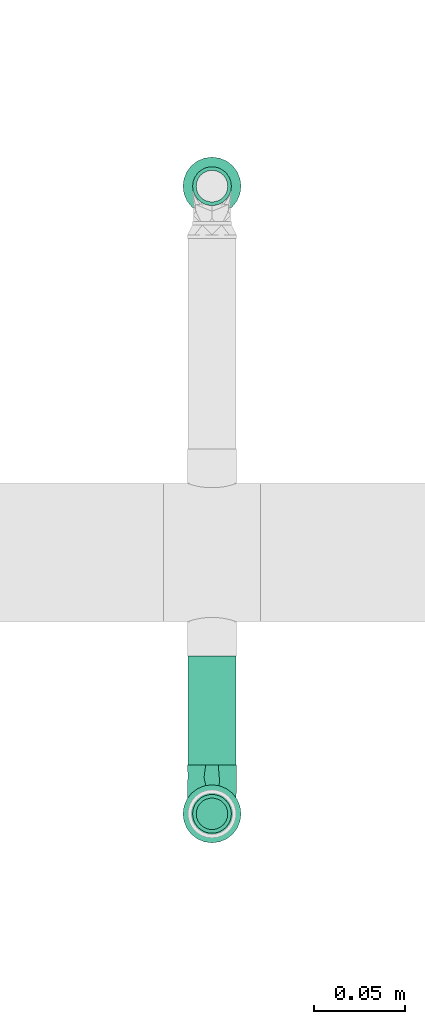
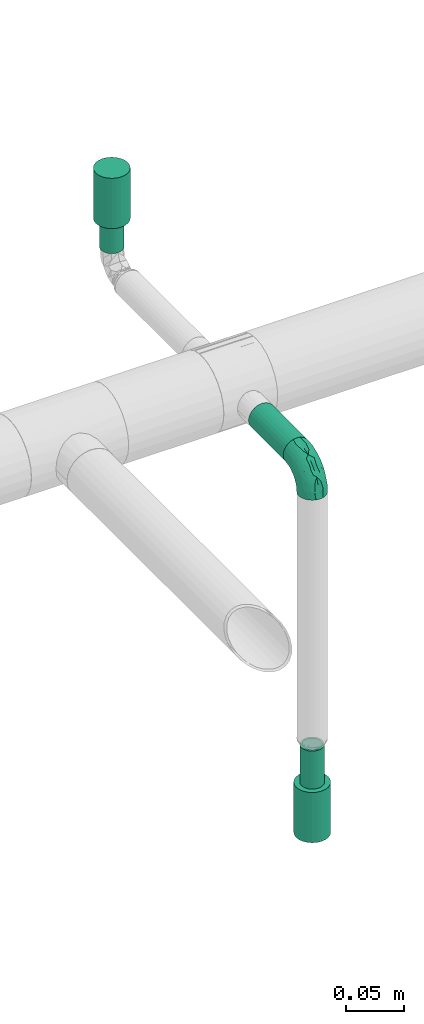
# One storey, part 40 of 51: 3 flow segments, 2 flow terminals, 1 flow fitting.
"""IFC2X3 building model written with IfcOpenShell, lengths in millimetres."""

from ifc_helpers import new_model, entity, si_unit, converted_unit, derived_unit, direction, frame, origin_with_axes, origin_2d_with_axis, place, context, subcontext, project, spatial, hollow_circle, extrude, open_shell, surface_model, source, transform, mapped, type_object, element, save


model = new_model("IFC2X3")

# Units and contexts
model_context = context("Model", 3, precision=0.01, world=frame((0.0, 4.29681676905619e-09, 0.0)), true_north=direction((4.01073788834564e-13, 1.0)))
plan_context = context("Plan", 3, precision=0.01, world=frame((0.0, 4.29681676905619e-09, 0.0)), true_north=direction((4.01073788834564e-13, 1.0)))
body_context = subcontext(model_context, "Body", "Model", "MODEL_VIEW")
ifc_project = project(units=[converted_unit("PLANEANGLEUNIT", "DEGREE", entity("IfcPositiveLengthMeasure", 0.0174532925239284), si_unit("PLANEANGLEUNIT", "RADIAN"), dimensions=[0, 0, 0, 0, 0, 0, 0]), si_unit("AREAUNIT", "SQUARE_METRE"), si_unit("LENGTHUNIT", "METRE", prefix="MILLI"), si_unit("MASSUNIT", "GRAM", prefix="KILO"), si_unit("POWERUNIT", "WATT"), si_unit("PRESSUREUNIT", "PASCAL"), si_unit("FORCEUNIT", "NEWTON", prefix="KILO"), si_unit("ELECTRICVOLTAGEUNIT", "VOLT"), si_unit("ELECTRICCURRENTUNIT", "AMPERE"), si_unit("THERMODYNAMICTEMPERATUREUNIT", "DEGREE_CELSIUS"), si_unit("TIMEUNIT", "SECOND"), si_unit("VOLUMEUNIT", "CUBIC_METRE"), derived_unit("LINEARVELOCITYUNIT", [(si_unit("LENGTHUNIT", "METRE"), 1), (si_unit("TIMEUNIT", "SECOND"), -1)]), derived_unit("VOLUMETRICFLOWRATEUNIT", [(si_unit("VOLUMEUNIT", "CUBIC_METRE"), 1), (si_unit("TIMEUNIT", "SECOND"), -1)]), derived_unit("THERMALTRANSMITTANCEUNIT", [(si_unit("POWERUNIT", "WATT"), 1), (si_unit("THERMODYNAMICTEMPERATUREUNIT", "KELVIN"), -1), (si_unit("AREAUNIT", "SQUARE_METRE"), -1)]), derived_unit("SOUNDPRESSUREUNIT", [(si_unit("PRESSUREUNIT", "PASCAL"), 1)])], contexts=[model_context, plan_context])

# Site, building, storey
site_placement = place(None, frame((0.0, -4.29681676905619e-09, 0.0), z_axis=(0.0, 0.0, 1.0), x_axis=(1.0, 0.0, 0.0)))
site = spatial("IfcSite", under=ifc_project, at=site_placement, Name="ENGM", CompositionType="ELEMENT")
building_placement = place(site_placement, frame((0.0, 4.29681676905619e-09, 0.0), z_axis=(0.0, 0.0, 1.0), x_axis=(1.0, 0.0, 0.0)))
building = spatial("IfcBuilding", under=site, at=building_placement, Name="TH", CompositionType="ELEMENT")
storey_placement = place(building_placement, frame((0.0, 0.0, 210200.0), z_axis=(0.0, 0.0, 1.0), x_axis=(1.0, 0.0, 0.0)))
storey = spatial("IfcBuildingStorey", under=building, at=storey_placement, Name="Nivå F - 0,7 m", CompositionType="ELEMENT", Elevation=210200.0)

# Flow fitting
pipe_fitting_type = type_object("IfcPipeFittingType", Name="magi_pipe_fe_elbow_short_001", PredefinedType="BEND")
shared_shape_1 = source(origin_with_axes(), body_context, "Body", "SurfaceModel", [
    surface_model("IfcShellBasedSurfaceModel", [(-26.8, 0.0, -13.4), (-26.8, -12.94341, -3.46818), (-26.8, 3.46818, -12.94341), (-26.8, 6.7, -11.60474), (-26.8, 9.47523, -9.47523), (-26.8, 11.60474, -6.7), (-26.8, 11.60474, 6.7), (-26.8, -9.47523, -9.47523), (-26.8, -6.7, -11.60474), (-26.8, -3.46818, -12.94341), (-26.8, -11.60474, -6.7), (-26.8, -13.4, 0.0), (-26.8, -12.94341, 3.46818), (-26.8, 12.94341, -3.46818), (-26.8, 12.94341, 3.46818), (-26.8, 3.46818, 12.94341), (-26.8, 6.7, 11.60474), (-26.8, 9.47523, 9.47523), (-26.8, -6.7, 11.60474), (-26.8, -11.60474, 6.7), (-26.8, -9.47523, 9.47523), (-26.8, -3.46818, 12.94341), (-26.8, 0.0, 13.4), (-26.8, 13.4, 0.0), (-3.46818, 26.8, -12.94341), (12.94341, 26.8, -3.46818), (0.0, 26.8, -13.4), (-9.47523, 26.8, -9.47523), (-6.7, 26.8, -11.60474), (-11.60474, 26.8, -6.7), (-11.60474, 26.8, 6.7), (6.7, 26.8, -11.60474), (9.47523, 26.8, -9.47523), (3.46818, 26.8, -12.94341), (11.60474, 26.8, -6.7), (12.94341, 26.8, 3.46818), (13.4, 26.8, 0.0), (-13.4, 26.8, 0.0), (-12.94341, 26.8, -3.46818), (-12.94341, 26.8, 3.46818), (-9.47523, 26.8, 9.47523), (-6.7, 26.8, 11.60474), (-3.46818, 26.8, 12.94341), (6.7, 26.8, 11.60474), (9.47523, 26.8, 9.47523), (11.60474, 26.8, 6.7), (3.46818, 26.8, 12.94341), (0.0, 26.8, 13.4), (-17.94383, -11.72186, 4.19396), (-19.61933, -10.40522, 7.51874), (-14.00394, -9.97131, 0.0), (-10.88146, -9.75217, 2.96415), (5.6402, 4.14256, 4.06277), (2.9355, 3.86758, 7.99817), (-0.16552, -0.70254, 6.90229), (-11.69279, -8.47867, 6.74741), (-3.60975, -5.23517, 4.12915), (-20.40197, -11.68565, 0.0), (6.07727, 10.7767, 9.16668), (7.71917, 17.5318, 9.98024), (3.23022, 10.34855, 11.14395), (-17.5318, -7.71917, 9.98024), (-19.6814, -5.06542, 12.05518), (-20.47091, -1.77513, 13.17083), (-18.76435, 2.05404, 13.37716), (-10.34855, -3.23022, 11.14395), (-13.34095, -0.12025, 12.98799), (-20.6562, 5.25542, 12.65822), (-21.01515, 11.15223, 8.78653), (-19.1981, 14.0055, 6.12639), (-23.45804, 12.58298, 5.55254), (-13.79572, 19.62699, 6.0655), (-4.65712, 13.17755, 13.37596), (-9.92557, 9.92557, 13.07441), (-7.97904, 5.85569, 13.33097), (-14.12498, 14.96497, 9.49183), (-23.18377, 8.11481, 10.91864), (-3.49778, 8.97497, 13.15743), (-6.65819, 2.45826, 12.5129), (-1.36893, 7.23965, 12.31444), (-22.3163, 13.71444, 3.37662), (-20.76788, 15.89859, 0.0), (-5.00198, 23.11411, 12.55149), (-1.83653, 20.04451, 13.36709), (5.06542, 19.6814, 12.05518), (-4.60225, -3.19632, 8.30444), (-2.39362, 2.39362, 10.95564), (1.77513, 20.47091, 13.17083), (10.40522, 19.61933, 7.51874), (8.47867, 11.69279, 6.74741), (11.72186, 17.94383, 4.19396), (-10.7767, -6.07727, 9.16668), (-14.71477, 20.20527, 3.11661), (-18.32912, 15.92283, 3.19527), (9.75217, 10.88146, 2.96415), (9.97131, 14.00394, 0.0), (11.68565, 20.40197, 0.0), (-17.32477, 17.32477, 0.0), (8.01422, 6.7, 0.0), (-11.0099, 17.80242, 10.25412), (-8.46783, 20.75346, 11.10693), (-11.06207, 21.36651, 8.74797), (-10.13559, 14.48567, 11.94159), (-5.79525, 18.15733, 12.76163), (-14.31139, 12.02432, 11.13575), (-6.7, -8.01422, 0.0), (-14.72492, 5.73985, 13.1602), (-13.14892, 3.28357, 13.39428), (-14.24576, 9.09225, 12.39421), (-7.80572, 13.90987, 12.83655), (0.12025, 13.34095, 12.98799), (-18.45241, 9.09615, 11.28418), (-1.02036, 0.84565, 9.15855), (-3.66591, -4.13183, 6.30134), (-3.02144, -4.33567, 0.0), (1.56761, -1.1228, 3.23127), (-15.89859, 20.76788, 0.0), (4.33567, 3.02144, 0.0), (0.65711, -0.65711, 0.0), (-21.21323, 1.69434, -13.35639), (-11.59215, 19.61477, -8.94181), (-19.9553, -12.05444, -4.41231), (-20.61911, 5.26132, -12.65979), (-18.29002, 15.89425, -3.37935), (-10.94714, -3.38176, -11.24231), (-11.6358, -0.16715, -12.74497), (-5.38395, -0.22423, -10.97991), (-19.45447, 8.78609, -11.20697), (-21.18665, 11.10723, -8.76769), (8.05635, 19.80434, -10.14754), (-16.16073, 12.27967, -10.10626), (-10.65974, -9.81032, -2.24682), (-4.63434, -6.26604, -3.21731), (-12.41035, 15.57424, -10.31822), (-9.54276, 16.38525, -11.6371), (-12.38435, 12.38435, -11.76567), (-1.18054, -2.52878, -5.66699), (1.17703, 2.36499, -8.51656), (4.94456, 3.94062, -5.27361), (-13.23013, 7.7548, -12.95755), (-18.92609, -10.30887, -7.4546), (-19.80434, -8.05635, -10.14754), (-5.46999, 19.49566, -12.70683), (12.05444, 19.9553, -4.41231), (-22.63124, -5.28269, -12.19553), (-11.57403, -7.91736, -7.4927), (-10.00514, -5.4662, -9.37392), (0.56412, 6.29454, -11.17498), (0.16715, 11.6358, -12.74497), (2.76952, 11.43973, -11.70622), (-22.71135, 13.83144, -2.294), (-13.13887, 21.26515, -5.84046), (-14.02683, 21.74629, -2.98452), (10.30887, 18.92609, -7.4546), (-4.73052, 4.73052, -12.6532), (-16.28385, 15.93209, -6.57302), (-1.69434, 21.21323, -13.35639), (-8.4106, 21.03687, -11.08508), (1.68957, 19.74249, -13.15499), (5.28269, 22.63124, -12.19553), (-19.74249, -1.68957, -13.15499), (-16.96978, -4.62448, -11.91765), (-3.16773, 14.76219, -13.39711), (-7.24575, 7.81916, -13.39239), (-7.92886, 12.7032, -13.00116), (-6.57993, -6.26304, -6.05124), (9.46363, 9.95483, -2.39006), (6.59847, 4.89531, -2.6225), (0.29079, -2.47661, -2.876), (-21.42347, 13.17132, -5.65321), (9.35918, 11.66841, -5.08525), (8.33374, 12.94014, -7.69724), (5.4662, 10.00514, -9.37392), (4.62448, 16.96978, -11.91765), (-3.89324, -2.60816, -8.35445), (5.97121, 7.49007, -7.29975), (-14.76219, 3.16773, -13.39711), (-15.36238, 22.06238, 0.0), (-11.66841, -9.35918, -5.08525), (3.63632, 1.19488, -3.35093), (-14.94382, 15.17624, -8.6945)], [open_shell([[[0, 1, 2]], [[3, 2, 4]], [[5, 2, 1]], [[4, 2, 5]], [[5, 1, 6]], [[7, 1, 8]], [[0, 9, 8]], [[10, 1, 7]], [[8, 1, 0]], [[11, 12, 1]], [[13, 5, 14]], [[5, 6, 14]], [[1, 15, 6]], [[15, 16, 17]], [[6, 15, 17]], [[1, 18, 15]], [[19, 20, 12]], [[18, 12, 20]], [[18, 21, 15]], [[18, 1, 12]], [[15, 21, 22]], [[14, 23, 13]], [[24, 25, 26]], [[27, 24, 28]], [[25, 24, 29]], [[29, 24, 27]], [[30, 25, 29]], [[31, 25, 32]], [[31, 33, 26]], [[32, 25, 34]], [[26, 25, 31]], [[25, 35, 36]], [[37, 29, 38]], [[39, 30, 29]], [[30, 40, 25]], [[40, 41, 42]], [[42, 25, 40]], [[43, 25, 42]], [[35, 44, 45]], [[44, 35, 43]], [[42, 46, 43]], [[35, 25, 43]], [[47, 46, 42]], [[39, 29, 37]], [[48, 49, 19]], [[48, 50, 51]], [[52, 53, 54]], [[55, 51, 56]], [[49, 20, 19]], [[57, 48, 12]], [[58, 59, 60]], [[61, 18, 20]], [[61, 62, 18]], [[22, 63, 64]], [[62, 65, 66]], [[59, 44, 43]], [[22, 21, 63]], [[67, 16, 15]], [[68, 69, 70]], [[30, 39, 71]], [[72, 73, 74]], [[69, 68, 75]], [[22, 64, 15]], [[16, 76, 17]], [[6, 17, 68]], [[77, 78, 79]], [[80, 81, 23]], [[42, 82, 83]], [[43, 84, 59]], [[85, 86, 65]], [[46, 47, 87]], [[88, 89, 90]], [[91, 65, 61]], [[47, 42, 83]], [[71, 92, 93]], [[90, 94, 95]], [[84, 43, 46]], [[88, 90, 45]], [[59, 84, 60]], [[35, 45, 90]], [[75, 71, 69]], [[18, 62, 21]], [[90, 96, 35]], [[97, 81, 93]], [[94, 98, 95]], [[92, 97, 93]], [[50, 48, 57]], [[70, 14, 6]], [[99, 100, 101]], [[40, 101, 100]], [[41, 40, 100]], [[102, 103, 100]], [[103, 72, 83]], [[82, 100, 103]], [[82, 42, 41]], [[99, 104, 102]], [[23, 14, 80]], [[67, 15, 64]], [[51, 50, 105]], [[48, 19, 12]], [[49, 55, 61]], [[45, 44, 88]], [[89, 52, 94]], [[106, 107, 74]], [[108, 67, 106]], [[40, 30, 101]], [[103, 102, 109]], [[103, 109, 72]], [[87, 83, 110]], [[76, 68, 17]], [[68, 111, 104]], [[65, 62, 61]], [[63, 62, 66]], [[91, 61, 55]], [[65, 86, 78]], [[87, 84, 46]], [[110, 79, 60]], [[110, 60, 84]], [[86, 112, 60]], [[55, 49, 48]], [[61, 20, 49]], [[44, 59, 88]], [[89, 88, 59]], [[106, 67, 64]], [[76, 67, 111]], [[53, 52, 89]], [[112, 86, 85]], [[56, 113, 55]], [[112, 54, 53]], [[58, 89, 59]], [[56, 51, 105]], [[114, 115, 56]], [[14, 70, 80]], [[69, 71, 93]], [[37, 116, 92]], [[92, 116, 97]], [[30, 71, 101]], [[75, 101, 71]], [[99, 102, 100]], [[108, 104, 111]], [[106, 74, 73]], [[110, 83, 72]], [[78, 74, 66]], [[72, 74, 77]], [[83, 87, 47]], [[84, 87, 110]], [[62, 63, 21]], [[64, 63, 66]], [[12, 11, 57]], [[96, 90, 95]], [[96, 36, 35]], [[115, 117, 52]], [[56, 105, 114]], [[55, 48, 51]], [[89, 94, 90]], [[52, 98, 94]], [[106, 64, 107]], [[108, 106, 73]], [[102, 108, 73]], [[67, 108, 111]], [[102, 104, 108]], [[68, 104, 75]], [[64, 66, 107]], [[66, 74, 107]], [[65, 78, 66]], [[79, 78, 86]], [[60, 79, 86]], [[77, 79, 110]], [[72, 77, 110]], [[78, 77, 74]], [[67, 76, 16]], [[68, 76, 111]], [[100, 82, 41]], [[83, 82, 103]], [[68, 70, 6]], [[80, 69, 93]], [[69, 80, 70]], [[80, 93, 81]], [[55, 85, 91]], [[85, 65, 91]], [[60, 53, 58]], [[53, 89, 58]], [[54, 112, 85]], [[60, 112, 53]], [[85, 113, 54]], [[113, 115, 54]], [[55, 113, 85]], [[115, 113, 56]], [[71, 39, 92]], [[115, 114, 118]], [[37, 92, 39]], [[101, 75, 99]], [[99, 75, 104]], [[102, 73, 109]], [[72, 109, 73]], [[54, 115, 52]], [[117, 115, 118]], [[117, 98, 52]], [[2, 119, 0]], [[29, 27, 120]], [[121, 57, 1]], [[3, 122, 2]], [[97, 123, 81]], [[124, 125, 126]], [[127, 4, 128]], [[32, 129, 31]], [[127, 128, 130]], [[131, 132, 105]], [[133, 134, 135]], [[127, 3, 4]], [[136, 137, 138]], [[139, 122, 127]], [[4, 5, 128]], [[10, 140, 121]], [[141, 140, 7]], [[24, 142, 28]], [[95, 143, 96]], [[144, 8, 9]], [[145, 141, 146]], [[25, 36, 96]], [[147, 148, 149]], [[140, 10, 7]], [[23, 81, 150]], [[130, 133, 135]], [[151, 152, 38]], [[153, 34, 143]], [[147, 154, 148]], [[38, 29, 151]], [[120, 155, 151]], [[32, 153, 129]], [[26, 156, 24]], [[24, 156, 142]], [[143, 34, 25]], [[27, 28, 157]], [[123, 152, 155]], [[158, 33, 159]], [[144, 160, 161]], [[122, 3, 127]], [[148, 162, 158]], [[157, 28, 142]], [[162, 163, 164]], [[159, 33, 31]], [[165, 136, 132]], [[34, 153, 32]], [[166, 98, 167]], [[160, 9, 0]], [[161, 160, 125]], [[95, 166, 143]], [[50, 131, 105]], [[121, 1, 10]], [[168, 114, 132]], [[150, 169, 13]], [[167, 98, 117]], [[33, 158, 26]], [[164, 142, 162]], [[133, 157, 134]], [[7, 8, 141]], [[165, 145, 146]], [[170, 171, 153]], [[129, 172, 173]], [[126, 137, 174]], [[175, 137, 172]], [[148, 158, 173]], [[156, 158, 162]], [[149, 172, 147]], [[148, 154, 163]], [[119, 160, 0]], [[176, 163, 125]], [[176, 125, 160]], [[125, 154, 126]], [[169, 128, 5]], [[127, 130, 135]], [[139, 127, 135]], [[119, 122, 176]], [[120, 151, 29]], [[152, 97, 177]], [[142, 164, 134]], [[120, 27, 157]], [[152, 37, 38]], [[81, 123, 150]], [[123, 155, 169]], [[152, 123, 97]], [[140, 178, 121]], [[121, 178, 131]], [[144, 141, 8]], [[146, 141, 161]], [[25, 96, 143]], [[170, 153, 143]], [[129, 153, 171]], [[159, 129, 173]], [[137, 147, 172]], [[126, 154, 147]], [[172, 171, 175]], [[174, 137, 136]], [[137, 126, 147]], [[126, 146, 124]], [[117, 118, 179]], [[179, 138, 167]], [[128, 169, 155]], [[5, 13, 169]], [[57, 121, 50]], [[57, 11, 1]], [[122, 119, 2]], [[160, 119, 176]], [[158, 156, 26]], [[142, 156, 162]], [[162, 148, 163]], [[139, 135, 164]], [[125, 163, 154]], [[139, 163, 176]], [[163, 139, 164]], [[122, 139, 176]], [[155, 180, 128]], [[180, 120, 133]], [[180, 133, 130]], [[157, 133, 120]], [[142, 134, 157]], [[164, 135, 134]], [[128, 180, 130]], [[120, 180, 155]], [[152, 151, 155]], [[37, 152, 177]], [[169, 150, 123]], [[23, 150, 13]], [[121, 131, 50]], [[178, 165, 132]], [[178, 132, 131]], [[168, 132, 136]], [[145, 165, 178]], [[174, 165, 146]], [[178, 140, 145]], [[141, 145, 140]], [[179, 136, 138]], [[170, 166, 167]], [[168, 179, 118]], [[170, 167, 138]], [[143, 166, 170]], [[95, 98, 166]], [[117, 179, 167]], [[136, 179, 168]], [[129, 159, 31]], [[158, 159, 173]], [[160, 144, 9]], [[141, 144, 161]], [[175, 170, 138]], [[129, 171, 172]], [[170, 175, 171]], [[137, 175, 138]], [[148, 173, 149]], [[172, 149, 173]], [[165, 174, 136]], [[126, 174, 146]], [[146, 161, 124]], [[125, 124, 161]], [[114, 168, 118]], [[114, 105, 132]]])]),
])
flow_fitting_placement = place(storey_placement, frame((909120.0, 484185.40642, 2933.0), z_axis=(1.0, 0.0, 0.0), x_axis=(0.0, -1.0, 0.0)))
element("IfcFlowFitting", 1, at=flow_fitting_placement, inside=storey, type_object=pipe_fitting_type, Name="magi_pipe_fe_elbow_short_001", context=body_context, shape_type="MappedRepresentation", body=[
    mapped(shared_shape_1, transform((0.0, 0.0, 0.0), scale=1.0)),
])

# Flow segments
pipe_segment_type = type_object("IfcPipeSegmentType", Name="Stålrør normaltykke", PredefinedType="RIGIDSEGMENT")
shared_shape_2 = source(origin_with_axes(), body_context, "Body", "SweptSolid", [
    extrude(hollow_circle(Radius=10.7, WallThickness=2.0, at=origin_2d_with_axis()), frame((0.0, 0.0, 0.0), z_axis=(1.0, 0.0, 0.0), x_axis=(0.0, 1.0, 0.0)), (0.0, 0.0, 1.0), 43.0),
])
flow_segment_1_placement = place(storey_placement, frame((909120.0, 484185.40642, 2596.95199999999), z_axis=(0.0, -1.0, 0.0), x_axis=(0.0, 0.0, 1.0)))
element("IfcFlowSegment", 2, at=flow_segment_1_placement, inside=storey, type_object=pipe_segment_type, Name="Stålrør normaltykke", context=body_context, shape_type="MappedRepresentation", body=[
    mapped(shared_shape_2, transform((0.0, 0.0, 0.0), scale=1.0)),
])
shared_shape_3 = source(origin_with_axes(), body_context, "Body", "SweptSolid", [
    extrude(hollow_circle(Radius=13.3, WallThickness=2.0, at=origin_2d_with_axis()), frame((0.0, 0.0, 0.0), z_axis=(1.0, 0.0, 0.0), x_axis=(0.0, 1.0, 0.0)), (0.0, 0.0, 1.0), 60.1),
])
flow_segment_2_placement = place(storey_placement, frame((909120.0, 484272.30519, 2933.0), z_axis=(0.0, 0.0, 1.0), x_axis=(0.0, -1.0, 0.0)))
element("IfcFlowSegment", 3, at=flow_segment_2_placement, inside=storey, type_object=pipe_segment_type, Name="Stålrør normaltykke", context=body_context, shape_type="MappedRepresentation", body=[
    mapped(shared_shape_3, transform((0.0, 0.0, 0.0), scale=1.0)),
])
shared_shape_4 = source(origin_with_axes(), body_context, "Body", "SweptSolid", [
    extrude(hollow_circle(Radius=10.7, WallThickness=2.0, at=origin_2d_with_axis()), frame((0.0, 0.0, 0.0), z_axis=(1.0, 0.0, 0.0), x_axis=(0.0, 1.0, 0.0)), (0.0, 0.0, 1.0), 33.1),
])
flow_segment_3_placement = place(storey_placement, frame((909120.0, 484531.46933, 2987.54800000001), z_axis=(0.0, 1.0, 0.0), x_axis=(0.0, 0.0, -1.0)))
element("IfcFlowSegment", 4, at=flow_segment_3_placement, inside=storey, type_object=pipe_segment_type, Name="Stålrør normaltykke", context=body_context, shape_type="MappedRepresentation", body=[
    mapped(shared_shape_4, transform((0.0, 0.0, 0.0), scale=1.0)),
])

# Flow terminals
fire_suppression_terminal_type_1 = type_object("IfcFireSuppressionTerminalType", Name="SP-15-K80-68DGR-STD-HIMLING", PredefinedType="NOTDEFINED")
shared_shape_5 = source(origin_with_axes(), body_context, "Body", "SurfaceModel", [
    surface_model("IfcShellBasedSurfaceModel", [(4.1411, -15.45481, 53.0), (8.0, -13.85641, 53.0), (11.31371, -11.31371, 53.0), (-8.0, -13.85641, 53.0), (15.45481, -4.1411, 53.0), (16.0, 0.0, 53.0), (13.85641, -8.0, 53.0), (0.0, -16.0, 53.0), (-4.1411, -15.45481, 53.0), (-13.85641, -8.0, 53.0), (-11.31371, -11.31371, 53.0), (-15.45481, -4.1411, 53.0), (15.45481, 4.1411, 53.0), (13.85641, 8.0, 53.0), (11.31371, 11.31371, 53.0), (-4.1411, 15.45481, 53.0), (8.0, 13.85641, 53.0), (4.1411, 15.45481, 53.0), (0.0, 16.0, 53.0), (-13.85641, 8.0, 53.0), (-15.45481, 4.1411, 53.0), (-16.0, 0.0, 53.0), (-11.31371, 11.31371, 53.0), (-8.0, 13.85641, 53.0), (0.0, 16.0, 0.0), (4.1411, 15.45481, 0.0), (8.0, 13.85641, 0.0), (-4.1411, 15.45481, 0.0), (11.31371, 11.31371, 0.0), (13.85641, 8.0, 0.0), (15.45481, 4.1411, 0.0), (-15.45481, -4.1411, 0.0), (-11.31371, 11.31371, 0.0), (-8.0, 13.85641, 0.0), (-13.85641, 8.0, 0.0), (-15.45481, 4.1411, 0.0), (-16.0, 0.0, 0.0), (4.1411, -15.45481, 0.0), (16.0, 0.0, 0.0), (15.45481, -4.1411, 0.0), (13.85641, -8.0, 0.0), (11.31371, -11.31371, 0.0), (8.0, -13.85641, 0.0), (-8.0, -13.85641, 0.0), (-13.85641, -8.0, 0.0), (-11.31371, -11.31371, 0.0), (0.0, -16.0, 0.0), (-4.1411, -15.45481, 0.0)], [open_shell([[[0, 1, 2]], [[3, 0, 2]], [[4, 5, 2]], [[4, 2, 6]], [[3, 2, 5]], [[7, 3, 8]], [[7, 0, 3]], [[3, 9, 10]], [[9, 3, 11]], [[5, 11, 3]], [[5, 12, 11]], [[12, 13, 14]], [[15, 12, 14]], [[16, 17, 18]], [[14, 16, 15]], [[18, 15, 16]], [[11, 19, 20]], [[21, 11, 20]], [[22, 15, 23]], [[15, 22, 19]], [[19, 11, 15]], [[11, 12, 15]], [[24, 25, 26]], [[27, 24, 26]], [[28, 29, 30]], [[27, 26, 28]], [[27, 28, 31]], [[27, 32, 33]], [[32, 27, 34]], [[34, 31, 35]], [[31, 34, 27]], [[35, 31, 36]], [[28, 30, 31]], [[37, 38, 39]], [[37, 39, 40]], [[41, 42, 37]], [[41, 37, 40]], [[38, 37, 43]], [[44, 43, 45]], [[43, 44, 31]], [[43, 46, 47]], [[43, 31, 38]], [[37, 46, 43]], [[38, 31, 30]], [[11, 31, 44]], [[45, 9, 44]], [[3, 43, 47]], [[45, 43, 10]], [[8, 47, 46]], [[31, 21, 36]], [[31, 11, 21]], [[44, 9, 11]], [[45, 10, 9]], [[3, 10, 43]], [[47, 8, 3]], [[46, 7, 8]], [[0, 37, 42]], [[41, 1, 42]], [[6, 40, 39]], [[41, 40, 2]], [[4, 39, 38]], [[37, 0, 7]], [[42, 1, 0]], [[41, 2, 1]], [[40, 6, 2]], [[4, 6, 39]], [[38, 5, 4]], [[37, 7, 46]], [[12, 38, 30]], [[13, 30, 29]], [[16, 26, 25]], [[17, 25, 24]], [[30, 13, 12]], [[12, 5, 38]], [[28, 14, 13]], [[28, 26, 14]], [[14, 26, 16]], [[25, 17, 16]], [[28, 13, 29]], [[24, 18, 17]], [[15, 27, 33]], [[32, 23, 33]], [[19, 34, 35]], [[32, 34, 22]], [[20, 35, 36]], [[27, 15, 18]], [[33, 23, 15]], [[32, 22, 23]], [[34, 19, 22]], [[20, 19, 35]], [[36, 21, 20]], [[27, 18, 24]]])]),
])
flow_terminal_1_placement = place(storey_placement, frame((909120.0, 484185.40642, 2600.0), z_axis=(0.0, 0.0, -1.0), x_axis=(-1.0, 0.0, 0.0)))
element("IfcFlowTerminal", 5, at=flow_terminal_1_placement, inside=storey, type_object=fire_suppression_terminal_type_1, Name="SP-15-K80-68DGR-STD-HIMLING", context=body_context, shape_type="MappedRepresentation", body=[
    mapped(shared_shape_5, transform((0.0, 0.0, 0.0), scale=1.0)),
])
fire_suppression_terminal_type_2 = type_object("IfcFireSuppressionTerminalType", Name="SP-15-K80-68DGR-STD-STÅENDE", PredefinedType="NOTDEFINED")
flow_terminal_2_placement = place(storey_placement, frame((909120.0, 484531.46933, 2984.5), z_axis=(0.0, 0.0, 1.0), x_axis=(1.0, 0.0, 0.0)))
element("IfcFlowTerminal", 6, at=flow_terminal_2_placement, inside=storey, type_object=fire_suppression_terminal_type_2, Name="SP-15-K80-68DGR-STD-STÅENDE", context=body_context, shape_type="MappedRepresentation", body=[
    mapped(shared_shape_5, transform((0.0, 0.0, 0.0), scale=1.0)),
])

save(model, "model.ifc")
